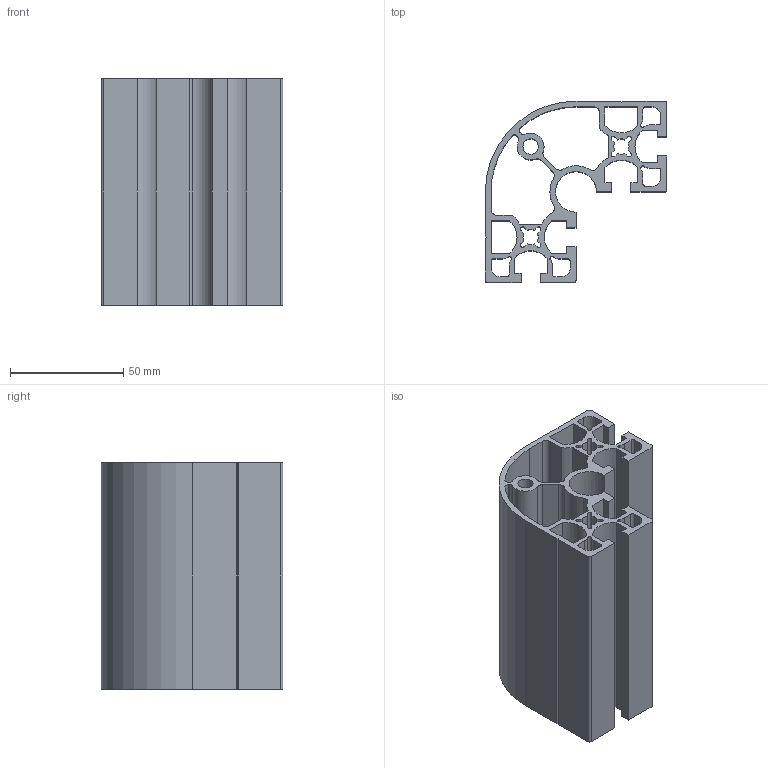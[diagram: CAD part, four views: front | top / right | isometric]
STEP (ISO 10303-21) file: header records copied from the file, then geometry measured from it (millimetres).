
FILE_DESCRIPTION (( 'STEP AP203' ), '1' );
FILE_NAME ('WSR8840C2-8.STEP', '2024-02-19T05:33:39', ( '' ), ( '' ), 'SwSTEP 2.0', 'SolidWorks 2022', '' );
FILE_SCHEMA (( 'CONFIG_CONTROL_DESIGN' ));
Length unit declared in the file: millimetre
Products named in the file (1): WSR8840C2-8
Bounding box: 80 x 80 x 100 mm (x, y, z)
Volume: 139700.8 mm3; surface area: 104791.7 mm2
Topology: 1 solids, 1 shells, 194 faces, 576 edges, 384 vertices
Faces by surface type: cylinder 100, plane 94
Entity records: 6681 total; most frequent: DIRECTION 1166, CARTESIAN_POINT 1155, ORIENTED_EDGE 1152, EDGE_CURVE 576, AXIS2_PLACEMENT_3D 395, VERTEX_POINT 384, VECTOR 376, LINE 376
